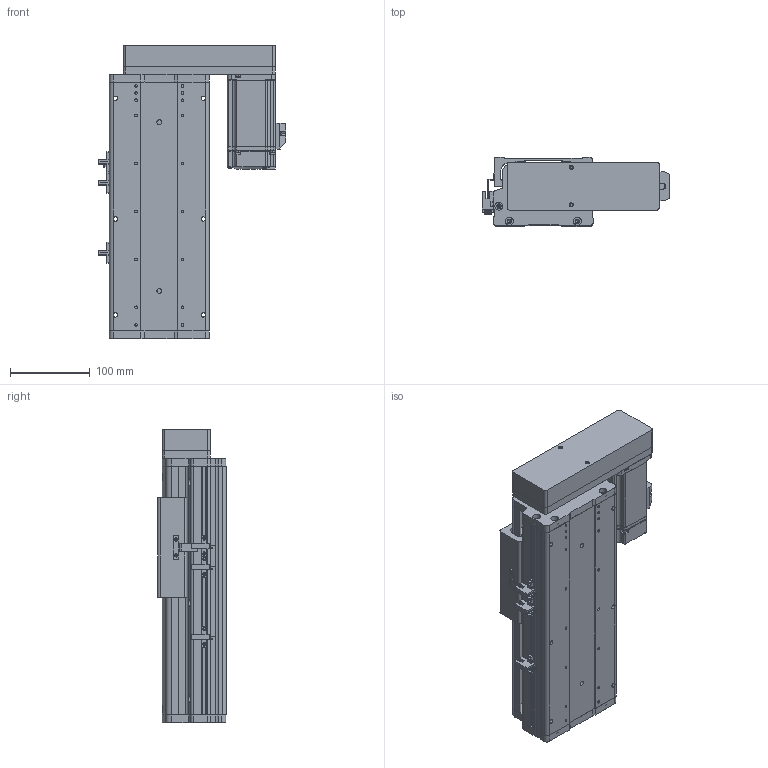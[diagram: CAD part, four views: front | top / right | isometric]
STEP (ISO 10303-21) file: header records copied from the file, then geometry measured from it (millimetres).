
FILE_DESCRIPTION (( 'STEP AP214' ), '1' );
FILE_NAME ('KSD125S-S100-MR-CM.STEP', '2017-10-21T08:48:48', ( '微软用户' ), ( '微软中国' ), 'SwSTEP 2.0', 'SolidWorks 2014', '' );
FILE_SCHEMA (( 'AUTOMOTIVE_DESIGN' ));
Length unit declared in the file: millimetre
Products named in the file (17): 125悵誘欶酘衵殏; MHMD042G1CA_2_03; KSD125S-100俴最佪裝滅鳥裔; KSD125S-100俴最佪裝菁啣; 坶踡蹟譫 梓袧; 拸萇儂釱滅袉菜; 拸萇儂釱滅袉菜-1; 覜茼え68遵圉猾敕; U倰嫖萇假蚾璃; U倰嫖萇EEㄜSX672; ヶ傷啣-125遵耀郪; KSD125-賑雄釱1; 125-帣傷啣1; KSD125S-S100-MR-CM; HTPA30S3M150_A_H6_a佪裝蚚; HTPA30S3M150_A_H6_a萇儂蚚; 125宽马达安装板连板左右折丝杆
Assembly tree (20 placements, depth 2):
  KSD125S-S100-MR-CM
    125-帣傷啣1
    KSD125-賑雄釱1
    ヶ傷啣-125遵耀郪
    U倰嫖萇EEㄜSX672  x3
    U倰嫖萇假蚾璃  x3
    覜茼え68遵圉猾敕
    拸萇儂釱滅袉菜-1
    拸萇儂釱滅袉菜
    坶踡蹟譫 梓袧
    KSD125S-100俴最佪裝菁啣
    KSD125S-100俴最佪裝滅鳥裔
    MHMD042G1CA_2_03
    125悵誘欶酘衵殏
    125宽马达安装板连板左右折丝杆
    HTPA30S3M150_A_H6_a萇儂蚚
    HTPA30S3M150_A_H6_a佪裝蚚
Bounding box: 234.2 x 86 x 367.5 mm (x, y, z)
Volume: 1577559.1 mm3; surface area: 579823.3 mm2
Topology: 19 solids, 22 shells, 2170 faces, 6257 edges, 4119 vertices
Faces by surface type: cylinder 1326, plane 689, cone 133, bspline 22
Entity records: 76370 total; most frequent: CARTESIAN_POINT 15571, DIRECTION 11857, ORIENTED_EDGE 11022, EDGE_CURVE 5589, AXIS2_PLACEMENT_3D 4563, VERTEX_POINT 3711, LINE 2731, VECTOR 2731
